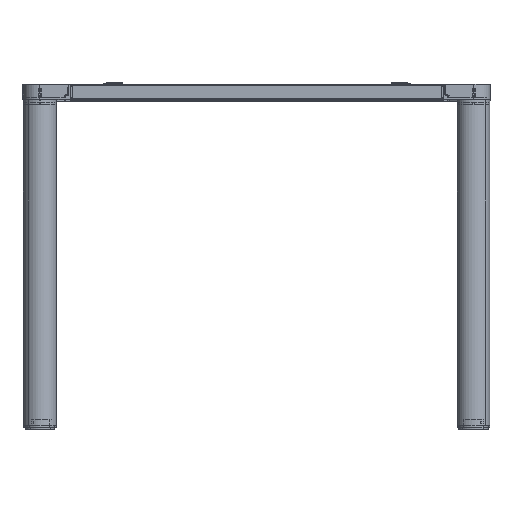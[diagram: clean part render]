
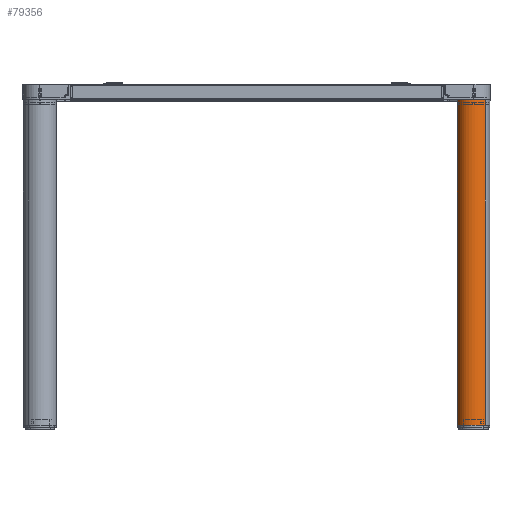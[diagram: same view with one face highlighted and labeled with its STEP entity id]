
A CAD part, top view. The second image highlights one B-rep face of the part: STEP entity #79356.
In plain terms, the highlighted cylindrical face has radius 31.75 mm (diameter 63.5 mm), a partial arc.
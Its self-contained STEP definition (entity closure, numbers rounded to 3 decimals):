
#73400=CARTESIAN_POINT('',(68.728,0.,
-2.309));
#73401=DIRECTION('',(0.,1.,0.));
#73402=DIRECTION('',(0.,0.,-1.));
#73403=AXIS2_PLACEMENT_3D('',#73400,#73401,#73402);
#73405=DIRECTION('',(0.,1.,0.));
#73406=VECTOR('',#73405,626.);
#73407=CARTESIAN_POINT('',(68.728,0.,
29.441));
#73408=LINE('',#73407,#73406);
#73409=DIRECTION('',(0.,1.,0.));
#73410=VECTOR('',#73409,626.);
#73411=CARTESIAN_POINT('',(68.728,0.,
-34.059));
#73412=LINE('',#73411,#73410);
#73418=CARTESIAN_POINT('',(68.728,626.,-2.309));
#73419=DIRECTION('',(0.,1.,0.));
#73420=DIRECTION('',(0.,0.,-1.));
#73421=AXIS2_PLACEMENT_3D('',#73418,#73419,#73420);
#73721=CARTESIAN_POINT('',(68.728,0.,
29.441));
#73722=CARTESIAN_POINT('',(68.728,0.,
-34.059));
#73723=VERTEX_POINT('',#73721);
#73724=VERTEX_POINT('',#73722);
#74287=CARTESIAN_POINT('',(68.728,626.,29.441));
#74288=CARTESIAN_POINT('',(68.728,626.,-34.059));
#74289=VERTEX_POINT('',#74287);
#74290=VERTEX_POINT('',#74288);
#79344=CARTESIAN_POINT('',(68.728,0.,
-2.309));
#79345=DIRECTION('',(0.,1.,0.));
#79346=DIRECTION('',(0.,0.,1.));
#79347=AXIS2_PLACEMENT_3D('',#79344,#79345,#79346);
#79348=CYLINDRICAL_SURFACE('',#79347,31.75);
#79349=ORIENTED_EDGE('',*,*,#79296,.F.);
#79350=ORIENTED_EDGE('',*,*,#79327,.T.);
#79352=ORIENTED_EDGE('',*,*,#79351,.T.);
#79353=ORIENTED_EDGE('',*,*,#79323,.F.);
#79354=EDGE_LOOP('',(#79349,#79350,#79352,#79353));
#79355=FACE_OUTER_BOUND('',#79354,.F.);
#73404=CIRCLE('',#73403,31.75);
#73422=CIRCLE('',#73421,31.75);
#79296=EDGE_CURVE('',#73724,#73723,#73404,.T.);
#79323=EDGE_CURVE('',#73723,#74289,#73408,.T.);
#79327=EDGE_CURVE('',#73724,#74290,#73412,.T.);
#79351=EDGE_CURVE('',#74290,#74289,#73422,.T.);
#79356=ADVANCED_FACE('',(#79355),#79348,.T.);
